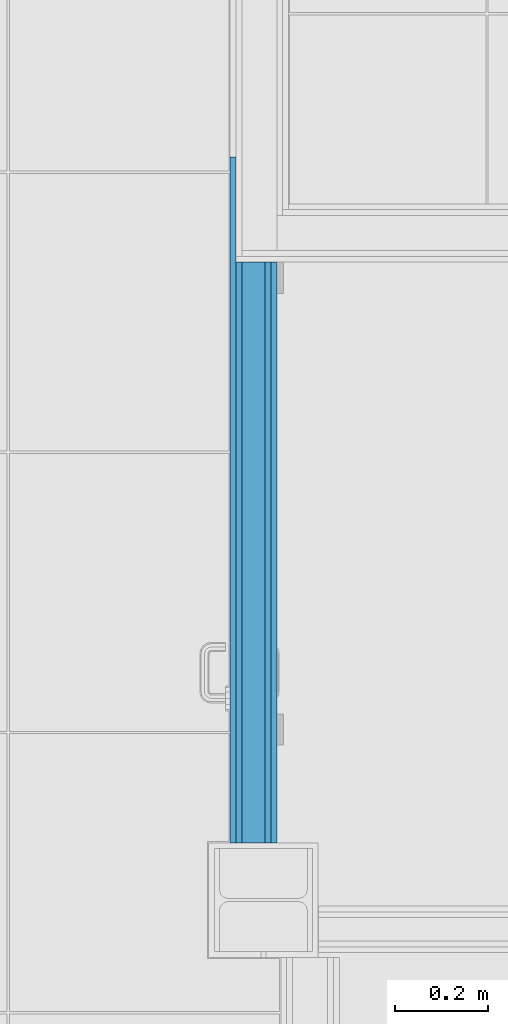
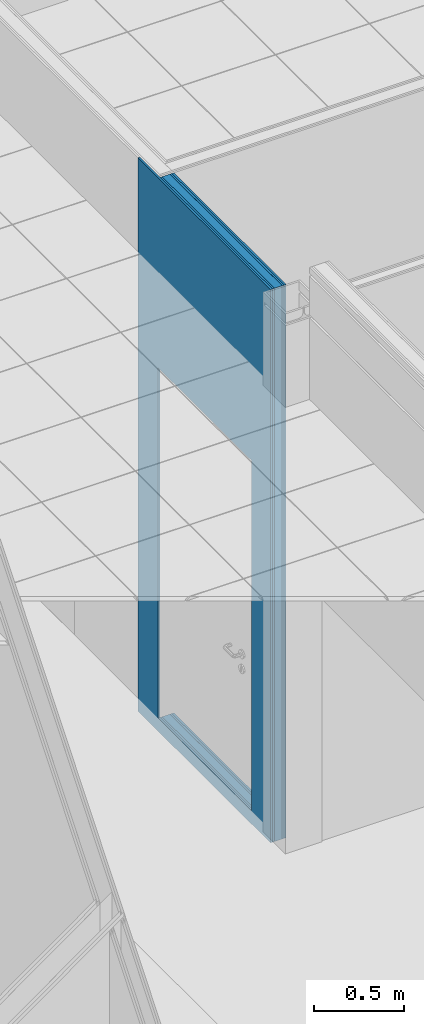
# One storey, part 27 of 338: 5 building element parts, 1 opening, 1 element without a shape of its own.
"""IFC2X3 building model written with IfcOpenShell, lengths in millimetres."""

from ifc_helpers import new_model, entity, si_unit, converted_unit, derived_unit, money_unit, direction, frame, origin_with_axes, place, context, subcontext, project, spatial, faceted_brep, material, type_object, element, aggregate, save


model = new_model("IFC2X3")

# Units and contexts
model_context = context("Model", 3, precision=0.01, world=origin_with_axes(), true_north=direction((0.0, 1.0)))
plan_context = context("Plan", 3, precision=0.01, world=origin_with_axes(), true_north=direction((0.0, 1.0)))
body_context = subcontext(model_context, "Body", "Model", "MODEL_VIEW")
ifc_project = project(units=[si_unit("LENGTHUNIT", "METRE", prefix="MILLI"), si_unit("AREAUNIT", "SQUARE_METRE"), si_unit("VOLUMEUNIT", "CUBIC_METRE"), converted_unit("PLANEANGLEUNIT", "DEGREE", entity("IfcPlaneAngleMeasure", 0.0174532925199), si_unit("PLANEANGLEUNIT", "RADIAN"), dimensions=[0, 0, 0, 0, 0, 0, 0]), money_unit("EUR"), converted_unit("TIMEUNIT", "Year", entity("IfcTimeMeasure", 31556926.0), si_unit("TIMEUNIT", "SECOND"), dimensions=[0, 0, 1, 0, 0, 0, 0]), si_unit("MASSUNIT", "GRAM", prefix="KILO"), si_unit("THERMODYNAMICTEMPERATUREUNIT", "DEGREE_CELSIUS"), si_unit("LUMINOUSINTENSITYUNIT", "LUMEN"), si_unit("ENERGYUNIT", "JOULE", prefix="MEGA"), derived_unit("THERMALCONDUCTANCEUNIT", [(si_unit("POWERUNIT", "WATT"), 1), (si_unit("LENGTHUNIT", "METRE"), -1), (si_unit("THERMODYNAMICTEMPERATUREUNIT", "KELVIN"), -1)]), derived_unit("SPECIFICHEATCAPACITYUNIT", [(si_unit("ENERGYUNIT", "JOULE"), 1), (si_unit("MASSUNIT", "GRAM", prefix="KILO"), -1), (si_unit("THERMODYNAMICTEMPERATUREUNIT", "KELVIN"), -1)]), derived_unit("MASSDENSITYUNIT", [(si_unit("MASSUNIT", "GRAM", prefix="KILO"), 1), (si_unit("VOLUMEUNIT", "CUBIC_METRE"), -1)])], contexts=[model_context, plan_context])

# Site, building, storey
site_placement = place(None, origin_with_axes())
site = spatial("IfcSite", under=ifc_project, at=site_placement, Name="Fortuinstraat Woensdrecht", CompositionType="ELEMENT")
building_placement = place(site_placement, origin_with_axes())
building = spatial("IfcBuilding", under=site, at=building_placement, Name="IKC Fortuna", CompositionType="ELEMENT")
storey_placement = place(building_placement, origin_with_axes())
storey = spatial("IfcBuildingStorey", under=building, at=storey_placement, Name="00 begane grond", CompositionType="ELEMENT", Elevation=0.0)

# Wall, opening, building element parts
wall_type = type_object("IfcWallType", Name="MS100 2.50.2A 100", PredefinedType="NOTDEFINED")
wall_placement = place(storey_placement, frame((25544.310763, 25368.0937057, -90.0), z_axis=(0.0, 0.0, 1.0), x_axis=(0.0, -1.0, 0.0)))
wall = element("IfcWall", 1, at=wall_placement, inside=storey, type_object=wall_type, Name="22_Wand_Binnenwand")
opening_placement = place(wall_placement, frame((517.0, 0.0, 90.0), z_axis=(0.0, 0.0, 1.0), x_axis=(1.0, 0.0, 0.0)))
element("IfcOpeningElement", 2, at=opening_placement, cuts=wall, Name="32_Deur_h.01a", context=body_context, shape_type="Brep", body=[
    faceted_brep([(-517.0, 100.0, 2367.0), (-517.0, 100.0, 0.0), (-517.0, -200.0, 0.0), (-517.0, -200.0, 2367.0), (517.0, 100.0, 2367.0), (517.0, 100.0, 0.0), (517.0, -200.0, 0.0), (517.0, -200.0, 2367.0)], [[[0, 1, 2, 3]], [[0, 4, 5, 1]], [[1, 5, 6, 2]], [[3, 2, 6, 7]], [[4, 0, 3, 7]], [[5, 4, 7, 6]]]),
])
ifc_material_1 = material(Name="Gipsplaat")
building_element_part_1_placement = place(wall_placement, origin_with_axes())
building_element_part_1 = element("IfcBuildingElementPart", 3, at=building_element_part_1_placement, material=ifc_material_1, Name="Gipsplaat", context=body_context, shape_type="Brep", body=[
    faceted_brep([(1034.0, 100.0, 90.0), (1034.0, 100.0, 2457.0), (0.0, 100.0, 2457.0), (0.0, 100.0, 3740.0), (1243.29707743, 100.0, 3740.0), (1243.29707743, 100.0, 0.0), (0.0, 100.0, 0.0), (0.0, 100.0, 90.0), (1034.0, 87.5, 90.0), (1034.0, 87.5, 2457.0), (0.0, 87.5, 2457.0), (0.0, 87.5, 3740.0), (1243.29707743, 87.5, 3740.0), (1243.29707743, 87.5, 0.0), (0.0, 87.5, 0.0), (0.0, 87.5, 90.0)], [[[0, 1, 2, 3, 4, 5, 6, 7]], [[1, 0, 8, 9]], [[10, 2, 1, 9]], [[2, 10, 11, 3]], [[11, 12, 4, 3]], [[4, 12, 13, 5]], [[6, 5, 13, 14]], [[15, 7, 6, 14]], [[0, 7, 15, 8]], [[8, 15, 14, 13, 12, 11, 10, 9]]]),
])
building_element_part_2_placement = place(wall_placement, origin_with_axes())
building_element_part_2 = element("IfcBuildingElementPart", 4, at=building_element_part_2_placement, material=ifc_material_1, Name="Gipsplaat", context=body_context, shape_type="Brep", body=[
    faceted_brep([(1034.0, 87.5, 90.0), (1034.0, 87.5, 2457.0), (0.0, 87.5, 2457.0), (0.0, 87.5, 3740.0), (1243.29707743, 87.5, 3740.0), (1243.29707743, 87.5, 0.0), (0.0, 87.5, 0.0), (0.0, 87.5, 90.0), (1034.0, 75.0, 90.0), (1034.0, 75.0, 2457.0), (0.0, 75.0, 2457.0), (0.0, 75.0, 3740.0), (1243.29707743, 75.0, 3740.0), (1243.29707743, 75.0, 0.0), (0.0, 75.0, 0.0), (0.0, 75.0, 90.0)], [[[0, 1, 2, 3, 4, 5, 6, 7]], [[1, 0, 8, 9]], [[10, 2, 1, 9]], [[2, 10, 11, 3]], [[11, 12, 4, 3]], [[4, 12, 13, 5]], [[6, 5, 13, 14]], [[15, 7, 6, 14]], [[0, 7, 15, 8]], [[8, 15, 14, 13, 12, 11, 10, 9]]]),
])
ifc_material_2 = material(Name="Isolatie - Steenwol LSW")
building_element_part_3_placement = place(wall_placement, origin_with_axes())
building_element_part_3 = element("IfcBuildingElementPart", 5, at=building_element_part_3_placement, material=ifc_material_2, Name="Isolatie - Steenwol LSW", context=body_context, shape_type="Brep", body=[
    faceted_brep([(1034.0, 75.0, 90.0), (1034.0, 75.0, 2457.0), (0.0, 75.0, 2457.0), (0.0, 75.0, 3740.0), (1243.29707743, 75.0, 3740.0), (1243.29707743, 75.0, 0.0), (0.0, 75.0, 0.0), (0.0, 75.0, 90.0), (1034.0, 25.0, 90.0), (1034.0, 25.0, 2457.0), (0.0, 25.0, 2457.0), (0.0, 25.0, 3740.0), (1243.29707743, 25.0, 3740.0), (1243.29707743, 25.0, 0.0), (0.0, 25.0, 0.0), (0.0, 25.0, 90.0)], [[[0, 1, 2, 3, 4, 5, 6, 7]], [[1, 0, 8, 9]], [[10, 2, 1, 9]], [[2, 10, 11, 3]], [[11, 12, 4, 3]], [[4, 12, 13, 5]], [[6, 5, 13, 14]], [[15, 7, 6, 14]], [[0, 7, 15, 8]], [[8, 15, 14, 13, 12, 11, 10, 9]]]),
])
building_element_part_4_placement = place(wall_placement, origin_with_axes())
building_element_part_4 = element("IfcBuildingElementPart", 6, at=building_element_part_4_placement, material=ifc_material_1, Name="Gipsplaat", context=body_context, shape_type="Brep", body=[
    faceted_brep([(1034.0, 25.0, 90.0), (1034.0, 25.0, 2457.0), (0.0, 25.0, 2457.0), (0.0, 25.0, 3740.0), (1243.29707743, 25.0, 3740.0), (1243.29707743, 25.0, 0.0), (0.0, 25.0, 0.0), (0.0, 25.0, 90.0), (1034.0, 12.5, 90.0), (1034.0, 12.5, 2457.0), (0.0, 12.5, 2457.0), (0.0, 12.5, 3740.0), (1243.29707743, 12.5, 3740.0), (1243.29707743, 12.5, 0.0), (0.0, 12.5, 0.0), (0.0, 12.5, 90.0)], [[[0, 1, 2, 3, 4, 5, 6, 7]], [[1, 0, 8, 9]], [[10, 2, 1, 9]], [[2, 10, 11, 3]], [[11, 12, 4, 3]], [[4, 12, 13, 5]], [[6, 5, 13, 14]], [[15, 7, 6, 14]], [[0, 7, 15, 8]], [[8, 15, 14, 13, 12, 11, 10, 9]]]),
])
building_element_part_5_placement = place(wall_placement, origin_with_axes())
building_element_part_5 = element("IfcBuildingElementPart", 7, at=building_element_part_5_placement, material=ifc_material_1, Name="Gipsplaat", context=body_context, shape_type="Brep", body=[
    faceted_brep([(-225.0, 0.0, 0.0), (1243.29707743, 0.0, 0.0), (1243.29707743, 0.0, 3740.0), (-225.0, 0.0, 3740.0), (1034.0, 0.0, 90.0), (0.0, 0.0, 90.0), (0.0, 0.0, 2457.0), (1034.0, 0.0, 2457.0), (-225.0, 12.5, 0.0), (1243.29707743, 12.5, 0.0), (1243.29707743, 12.5, 3740.0), (-225.0, 12.5, 3740.0), (1034.0, 12.5, 90.0), (0.0, 12.5, 90.0), (0.0, 12.5, 2457.0), (1034.0, 12.5, 2457.0)], [[[0, 1, 2, 3], [4, 5, 6, 7]], [[8, 9, 1, 0]], [[10, 2, 1, 9]], [[3, 2, 10, 11]], [[0, 3, 11, 8]], [[12, 13, 5, 4]], [[13, 14, 6, 5]], [[14, 15, 7, 6]], [[15, 12, 4, 7]], [[11, 10, 9, 8], [12, 15, 14, 13]]]),
])
aggregate(wall, [building_element_part_1, building_element_part_2, building_element_part_3, building_element_part_4, building_element_part_5])

save(model, "model.ifc")
